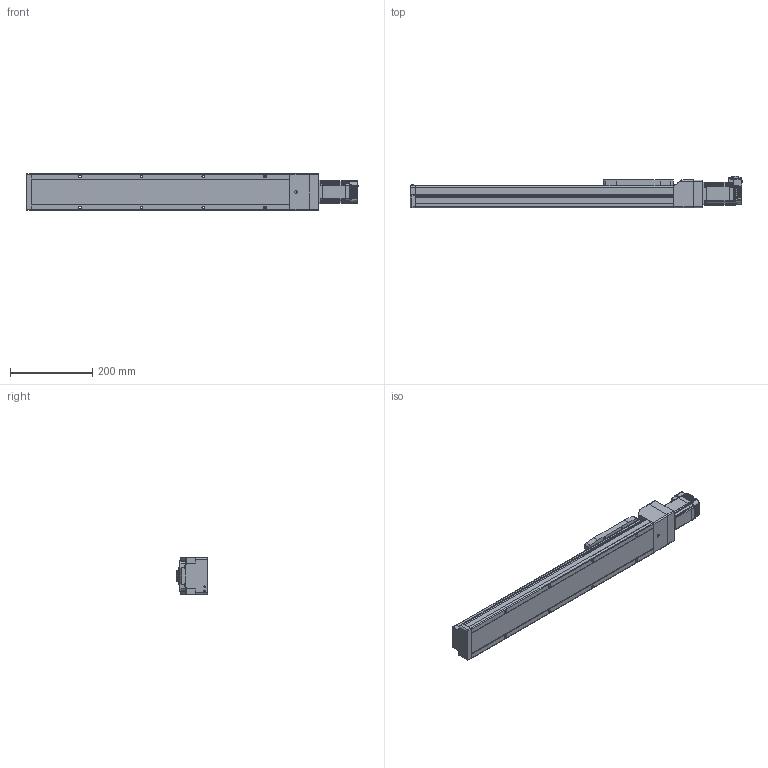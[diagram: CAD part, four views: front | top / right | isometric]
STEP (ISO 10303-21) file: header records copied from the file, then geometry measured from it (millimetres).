
FILE_DESCRIPTION (( 'STEP AP214' ), '1' );
FILE_NAME ('LEFS3(+)-40NM1仩-450-23L.STEP', '2023-06-02T05:10:21', ( '' ), ( '' ), 'SwSTEP 2.0', 'SolidWorks 2019', '' );
FILE_SCHEMA (( 'AUTOMOTIVE_DESIGN' ));
Length unit declared in the file: millimetre
Products named in the file (5): CM3(+)-23L50A_4-M4; LEFS3(+)-40NM1?_BODY_450; LEFS3(+)-40NM1_TABLE; LEFS3(+)-40NM1仩-450-23L; LEFS3(+)-40NM1_Motor Flange
Assembly tree (4 placements, depth 2):
  LEFS3(+)-40NM1仩-450-23L
    LEFS3(+)-40NM1?_BODY_450
    LEFS3(+)-40NM1_TABLE
    LEFS3(+)-40NM1_Motor Flange
    CM3(+)-23L50A_4-M4
Bounding box: 807.6 x 76.75 x 90 mm (x, y, z)
Volume: 3434952 mm3; surface area: 319427.8 mm2
Topology: 5 solids, 14 shells, 1650 faces, 4281 edges, 2648 vertices
Faces by surface type: plane 764, cylinder 515, bspline 133, cone 117, torus 74, sphere 47
Entity records: 55925 total; most frequent: CARTESIAN_POINT 13985, ORIENTED_EDGE 8412, DIRECTION 7838, EDGE_CURVE 4206, AXIS2_PLACEMENT_3D 2664, VERTEX_POINT 2648, LINE 2510, VECTOR 2510
